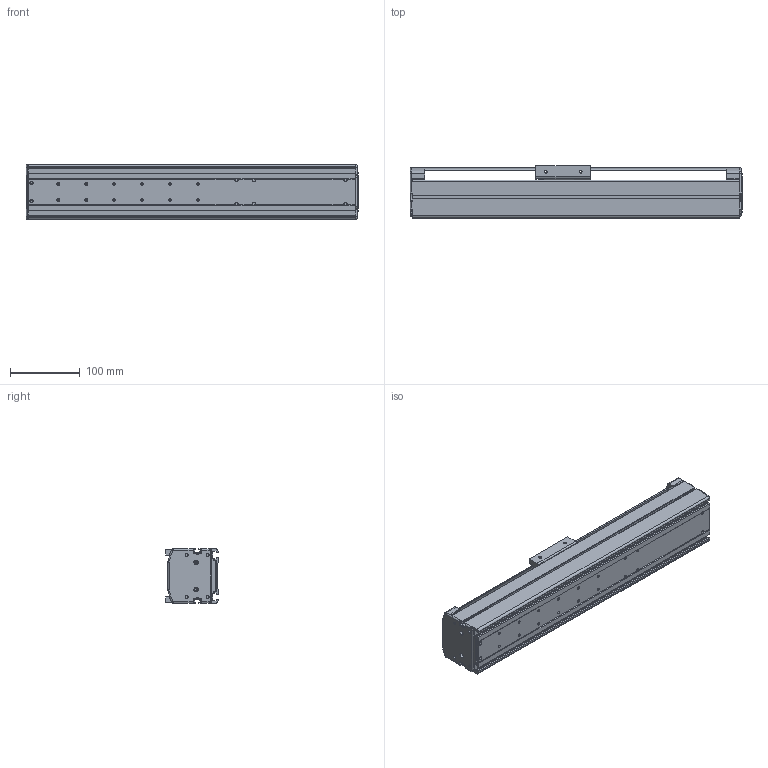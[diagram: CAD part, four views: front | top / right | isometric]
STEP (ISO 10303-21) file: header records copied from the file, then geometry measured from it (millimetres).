
FILE_DESCRIPTION((''),'2;1');
FILE_NAME('BE10E-ST-S_N-15_IGS_PRT','2017-06-17T',(' '),(''),'PRO/ENGINEER BY PARAMETRIC TECHNOLOGY CORPORATION, 2015030','PRO/ENGINEER BY PARAMETRIC TECHNOLOGY CORPORATION, 2015030','');
FILE_SCHEMA(('CONFIG_CONTROL_DESIGN'));
Length unit declared in the file: millimetre
Products named in the file (1): BE10E-ST-S_N-15_IGS_PRT
Bounding box: 475 x 75 x 78 mm (x, y, z)
Volume: 645239.6 mm3; surface area: 391077.5 mm2
Topology: 2 solids, 46 shells, 1060 faces, 2827 edges, 1813 vertices
Faces by surface type: cylinder 488, plane 419, torus 66, sphere 42, cone 38, bspline 7
Entity records: 34019 total; most frequent: CARTESIAN_POINT 6955, DIRECTION 5864, ORIENTED_EDGE 5450, EDGE_CURVE 2809, AXIS2_PLACEMENT_3D 2171, VERTEX_POINT 1813, VECTOR 1522, LINE 1522
